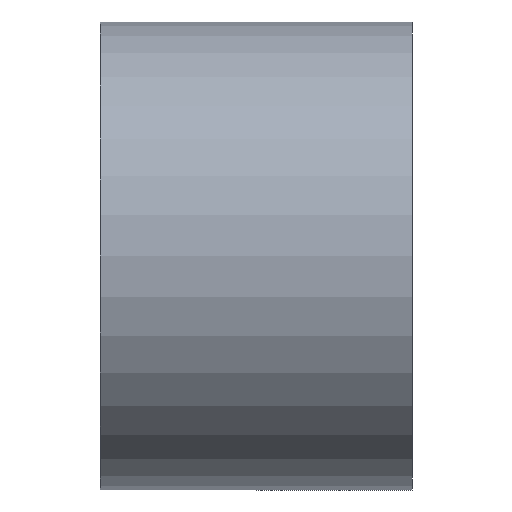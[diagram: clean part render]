
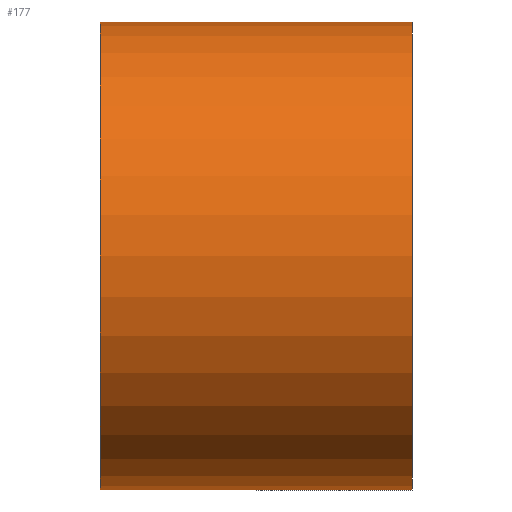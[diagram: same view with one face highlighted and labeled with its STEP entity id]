
A CAD part, front view. The second image highlights one B-rep face of the part: STEP entity #177.
In plain terms, the highlighted cylindrical face has radius 30 mm (diameter 60 mm), a partial arc.
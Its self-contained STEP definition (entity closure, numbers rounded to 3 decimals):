
#5 = CYLINDRICAL_SURFACE ( 'NONE', #163, 30. ) ;
#37 = EDGE_CURVE ( 'NONE', #382, #95, #333, .T. ) ;
#66 = CARTESIAN_POINT ( 'NONE',  ( -20., 0., 0. ) ) ;
#87 = DIRECTION ( 'NONE',  ( -1., 0., 0. ) ) ;
#95 = VERTEX_POINT ( 'NONE', #474 ) ;
#163 = AXIS2_PLACEMENT_3D ( 'NONE', #619, #87, #764 ) ;
#175 = EDGE_CURVE ( 'NONE', #439, #95, #550, .T. ) ;
#177 = ADVANCED_FACE ( 'NONE', ( #433 ), #5, .T. ) ;
#201 = DIRECTION ( 'NONE',  ( -1., 0., 0. ) ) ;
#220 = AXIS2_PLACEMENT_3D ( 'NONE', #66, #423, #350 ) ;
#238 = CARTESIAN_POINT ( 'NONE',  ( 20., 0., 30. ) ) ;
#269 = CARTESIAN_POINT ( 'NONE',  ( 20., 0., -30. ) ) ;
#333 = LINE ( 'NONE', #395, #704 ) ;
#336 = CIRCLE ( 'NONE', #841, 30. ) ;
#340 = DIRECTION ( 'NONE',  ( -1., 0., 0. ) ) ;
#350 = DIRECTION ( 'NONE',  ( 0., 0., 1. ) ) ;
#353 = DIRECTION ( 'NONE',  ( -1., 0., 0. ) ) ;
#382 = VERTEX_POINT ( 'NONE', #238 ) ;
#395 = CARTESIAN_POINT ( 'NONE',  ( 0., 0., 30. ) ) ;
#401 = CARTESIAN_POINT ( 'NONE',  ( 20., 0., 0. ) ) ;
#423 = DIRECTION ( 'NONE',  ( -1., 0., 0. ) ) ;
#433 = FACE_OUTER_BOUND ( 'NONE', #559, .T. ) ;
#439 = VERTEX_POINT ( 'NONE', #859 ) ;
#474 = CARTESIAN_POINT ( 'NONE',  ( -20., 0., 30. ) ) ;
#478 = EDGE_CURVE ( 'NONE', #533, #382, #336, .T. ) ;
#533 = VERTEX_POINT ( 'NONE', #269 ) ;
#539 = VECTOR ( 'NONE', #353, 1000. ) ;
#550 = CIRCLE ( 'NONE', #220, 30. ) ;
#556 = LINE ( 'NONE', #837, #539 ) ;
#559 = EDGE_LOOP ( 'NONE', ( #806, #797, #726, #876 ) ) ;
#619 = CARTESIAN_POINT ( 'NONE',  ( 0., 0., 0. ) ) ;
#704 = VECTOR ( 'NONE', #201, 1000. ) ;
#726 = ORIENTED_EDGE ( 'NONE', *, *, #37, .T. ) ;
#764 = DIRECTION ( 'NONE',  ( 0., 0., 1. ) ) ;
#774 = EDGE_CURVE ( 'NONE', #533, #439, #556, .T. ) ;
#797 = ORIENTED_EDGE ( 'NONE', *, *, #478, .T. ) ;
#799 = DIRECTION ( 'NONE',  ( 0., 0., 1. ) ) ;
#806 = ORIENTED_EDGE ( 'NONE', *, *, #774, .F. ) ;
#837 = CARTESIAN_POINT ( 'NONE',  ( 0., 0., -30. ) ) ;
#841 = AXIS2_PLACEMENT_3D ( 'NONE', #401, #340, #799 ) ;
#859 = CARTESIAN_POINT ( 'NONE',  ( -20., 0., -30. ) ) ;
#876 = ORIENTED_EDGE ( 'NONE', *, *, #175, .F. ) ;
